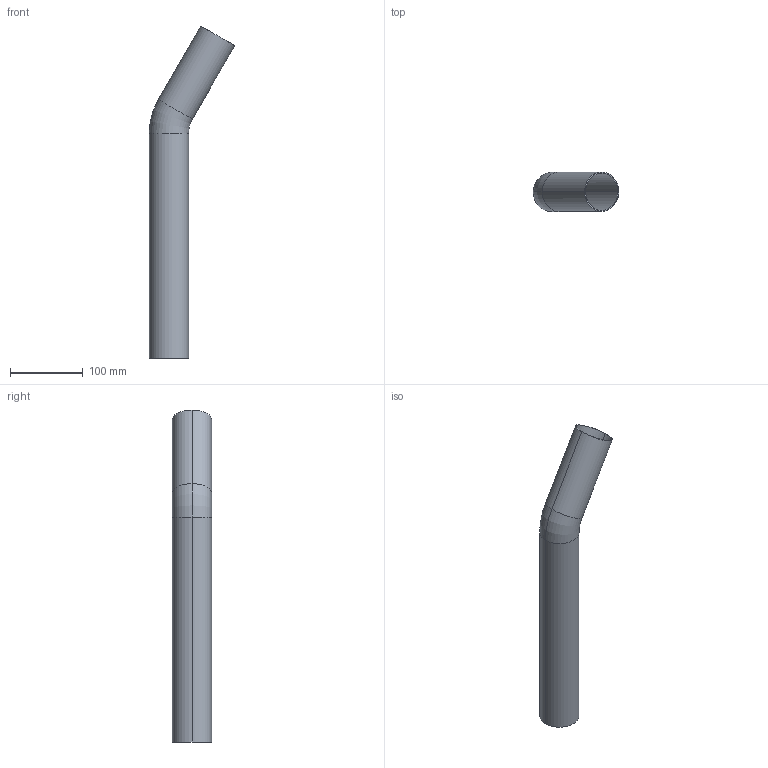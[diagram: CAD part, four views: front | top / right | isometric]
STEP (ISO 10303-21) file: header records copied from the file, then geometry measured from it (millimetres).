
FILE_DESCRIPTION(('OneSpaceDesigner STEP Export'),'2;1');
FILE_NAME('R2723 54x54.stp','2010-06-10T12:53:37',(''),(''),'OneSpace Designer STEP processor for AP214 (Solid Model)','OneSpace Modeling 15.00A 14-Mar-2007 (C) CoCreate Software GmbH','');
FILE_SCHEMA(('AUTOMOTIVE_DESIGN { 1 0 10303 214 1 1 1 1 }'));
Length unit declared in the file: millimetre
Products named in the file (2): R2723_54x54
Assembly tree (1 placements, depth 2):
  R2723_54x54
    R2723_54x54
Bounding box: 117.38 x 54 x 455.55 mm (x, y, z)
Volume: 113606.4 mm3; surface area: 151970 mm2
Topology: 1 solids, 1 shells, 14 faces, 29 edges, 17 vertices
Faces by surface type: cylinder 8, torus 4, plane 2
Entity records: 362 total; most frequent: ORIENTED_EDGE 58, DIRECTION 56, CARTESIAN_POINT 49, EDGE_CURVE 29, AXIS2_PLACEMENT_3D 24, VERTEX_POINT 17, EDGE_LOOP 16, CIRCLE 14
